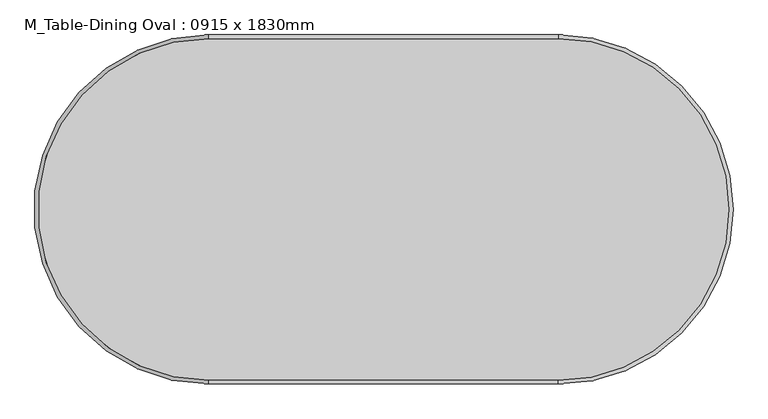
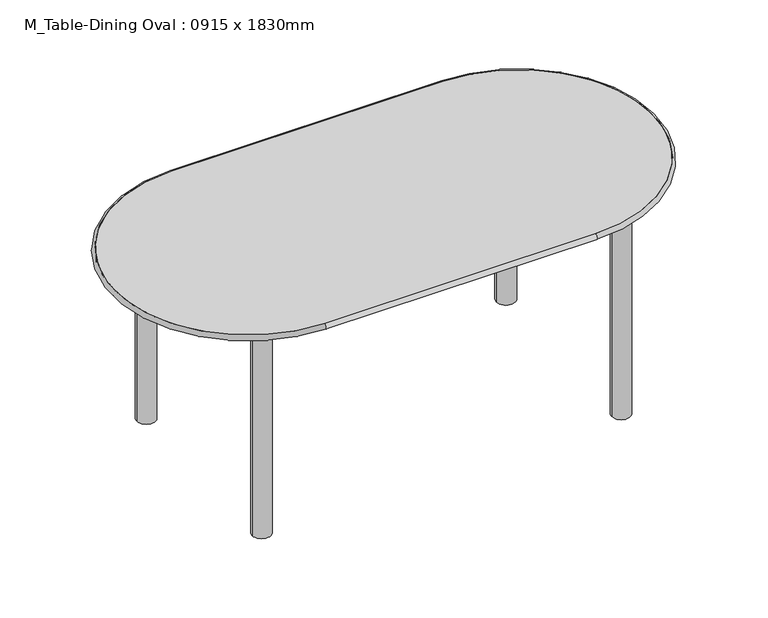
"""IFC4 building model written with IfcOpenShell, lengths in millimetres: furniture geometry, M_Table-Dining Oval : 0915 x 1830mm."""

from ifc_helpers import new_model, si_unit, point, frame, frame_2d, origin, origin_with_axes, place, context, project, spatial, polyline, circle_curve, ellipse_curve, trimmed, segment, composite_curve, outline, extrude, source, transform, mapped, element, save
from ifc_brep_helpers import plane_surface, cylinder_surface, revolved_surface, advanced_brep


def m_table_dining_oval_0915_x_1830mm_ad8305c5(model_context):
    return source(origin(), model_context, "Body", "SolidModel", [
        advanced_brep(
        [(-859.3196721, 806.0733607, 762.0), (55.6803279, 806.0733607, 762.0), (55.6803279, 806.0733607, 742.95), (-859.3196721, 806.0733607, 742.95), (55.6803279, -89.8766393, 762.0), (55.6803279, -89.8766393, 742.95), (-859.3196721, -89.8766393, 762.0), (-859.3196721, -89.8766393, 742.95)],
        [
            (0, 1),
            (1, 2, circle_curve(frame((55.6803279, 806.0733607, 752.475), z_axis=(-1.0, 0.0, 0.0), x_axis=(0.0, -1.0, 0.0)), 9.525)),
            (2, 3),
            (3, 0, circle_curve(frame((-859.3196721, 806.0733607, 752.475), z_axis=(1.0, 0.0, 0.0), x_axis=(0.0, -1.0, 0.0)), 9.525)),
            (2, 1),
            (0, 3),
            (4, 5, circle_curve(frame((55.6803279, -89.8766393, 752.475), z_axis=(1.0, 0.0, 0.0), x_axis=(0.0, 1.0, 0.0)), 9.525)),
            (5, 2, circle_curve(frame((55.6803279, 358.0983607, 742.95), z_axis=(0.0, 0.0, 1.0), x_axis=(0.0, 1.0, 0.0)), 447.975)),
            (1, 4, circle_curve(frame((55.6803279, 358.0983607, 762.0), z_axis=(0.0, 0.0, -1.0), x_axis=(0.0, 1.0, 0.0)), 447.975)),
            (5, 4),
            (4, 6),
            (6, 7, circle_curve(frame((-859.3196721, -89.8766393, 752.475), z_axis=(1.0, 0.0, 0.0), x_axis=(0.0, 1.0, 0.0)), 9.525)),
            (7, 5),
            (7, 6),
            (3, 7, circle_curve(frame((-859.3196721, 358.0983607, 742.95), z_axis=(0.0, 0.0, 1.0), x_axis=(0.0, -1.0, 0.0)), 447.975)),
            (6, 0, circle_curve(frame((-859.3196721, 358.0983607, 762.0), z_axis=(0.0, 0.0, -1.0), x_axis=(0.0, -1.0, 0.0)), 447.975)),
        ],
        [
            cylinder_surface(frame((-859.3196721, 806.0733607, 752.475), z_axis=(-1.0, 0.0, 0.0), x_axis=(0.0, -1.0, 0.0)), 9.525),
            plane_surface(frame((-859.3196721, 806.0733607, 762.0), z_axis=(0.0, -1.0, 0.0), x_axis=(1.0, 0.0, 0.0))),
            revolved_surface(trimmed(ellipse_curve(frame((55.6803279, 806.0733607, 752.475), z_axis=(1.0, 0.0, 0.0), x_axis=(0.0, -1.0, 0.0)), 9.525, 9.525), [point((55.6803279, 806.0733607, 742.95))], [point((55.6803279, 806.0733607, 762.0))], True, "CARTESIAN"), (55.6803279, 358.0983607, 0.0), (0.0, 0.0, 1.0)),
            revolved_surface(polyline([(55.6803279, 806.0733607, 762.0), (55.6803279, 806.0733607, 742.95)]), (55.6803279, 358.0983607, 0.0), (0.0, 0.0, 1.0)),
            cylinder_surface(frame((55.6803279, -89.8766393, 752.475), z_axis=(1.0, 0.0, 0.0), x_axis=(0.0, 1.0, 0.0)), 9.525),
            plane_surface(frame((55.6803279, -89.8766393, 762.0), z_axis=(0.0, 1.0, 0.0), x_axis=(-1.0, 0.0, 0.0))),
            revolved_surface(trimmed(ellipse_curve(frame((-859.3196721, -89.8766393, 752.475), z_axis=(-1.0, 0.0, 0.0), x_axis=(0.0, 1.0, 0.0)), 9.525, 9.525), [point((-859.3196721, -89.8766393, 742.95))], [point((-859.3196721, -89.8766393, 762.0))], True, "CARTESIAN"), (-859.3196721, 358.0983607, 0.0), (0.0, 0.0, 1.0)),
            revolved_surface(polyline([(-859.3196721, -89.87663930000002, 762.0), (-859.3196721, -89.87663930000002, 742.95)]), (-859.3196721, 358.0983607, 0.0), (0.0, 0.0, 1.0)),
        ],
        [
            (0, [[1, 2, 3, 4]]),
            (1, [[-3, 5, -1, 6]]),
            (2, [[7, 8, -2, 9]]),
            (3, [[10, -9, -5, -8]]),
            (4, [[11, 12, 13, -7]]),
            (5, [[-13, 14, -11, -10]]),
            (6, [[-4, 15, -12, 16]]),
            (7, [[-6, -16, -14, -15]]),
        ],
    ),
        extrude(outline(composite_curve([segment(trimmed(circle_curve(frame_2d((-1008.5446721, 21.2483607)), 31.75), [point((-1040.2946721, 21.2483607))], [point((-976.7946721, 21.2483607))], False, "CARTESIAN"), True, "CONTINUOUS"), segment(trimmed(circle_curve(frame_2d((-1008.5446721, 21.2483607)), 31.75), [point((-976.7946721, 21.2483607))], [point((-1040.2946721, 21.2483607))], False, "CARTESIAN"), True, "CONTINUOUS")], self_intersect=False)), origin_with_axes(), (0.0, 0.0, 1.0), 742.95),
        extrude(outline(composite_curve([segment(trimmed(circle_curve(frame_2d((-1008.5446721, 694.9483607)), 31.75), [point((-1040.2946721, 694.9483607))], [point((-976.7946721, 694.9483607))], False, "CARTESIAN"), True, "CONTINUOUS"), segment(trimmed(circle_curve(frame_2d((-1008.5446721, 694.9483607)), 31.75), [point((-976.7946721, 694.9483607))], [point((-1040.2946721, 694.9483607))], False, "CARTESIAN"), True, "CONTINUOUS")], self_intersect=False)), origin_with_axes(), (0.0, 0.0, 1.0), 742.95),
        extrude(outline(composite_curve([segment(trimmed(circle_curve(frame_2d((204.9053279, 21.2483607)), 31.75), [point((173.1553279, 21.2483607))], [point((236.6553279, 21.2483607))], False, "CARTESIAN"), True, "CONTINUOUS"), segment(trimmed(circle_curve(frame_2d((204.9053279, 21.2483607)), 31.75), [point((236.6553279, 21.2483607))], [point((173.1553279, 21.2483607))], False, "CARTESIAN"), True, "CONTINUOUS")], self_intersect=False)), origin_with_axes(), (0.0, 0.0, 1.0), 742.95),
        extrude(outline(composite_curve([segment(trimmed(circle_curve(frame_2d((204.9053279, 694.9483607)), 31.75), [point((173.1553279, 694.9483607))], [point((236.6553279, 694.9483607))], False, "CARTESIAN"), True, "CONTINUOUS"), segment(trimmed(circle_curve(frame_2d((204.9053279, 694.9483607)), 31.75), [point((236.6553279, 694.9483607))], [point((173.1553279, 694.9483607))], False, "CARTESIAN"), True, "CONTINUOUS")], self_intersect=False)), origin_with_axes(), (0.0, 0.0, 1.0), 742.95),
        extrude(outline(polyline([(223.9553279, 2.1983607), (-1027.5946721, 2.1983607), (-1027.5946721, 713.9983607), (223.9553279, 713.9983607), (223.9553279, 2.1983607)]), holes=[polyline([(204.9053279, 21.2483607), (204.9053279, 694.9483607), (-1008.5446721, 694.9483607), (-1008.5446721, 21.2483607), (204.9053279, 21.2483607)])]), frame((0.0, 0.0, 692.15), z_axis=(0.0, 0.0, 1.0), x_axis=(1.0, 0.0, 0.0)), (0.0, 0.0, 1.0), 50.8),
        extrude(outline(composite_curve([segment(trimmed(circle_curve(frame_2d((-859.3196721, 358.0983607)), 447.975), [point((-859.3196721, -89.8766393))], [point((-1307.2946721, 358.0983607))], False, "CARTESIAN"), True, "CONTINUOUS"), segment(trimmed(circle_curve(frame_2d((-859.3196721, 358.0983607)), 447.975), [point((-1307.2946721, 358.0983607))], [point((-859.3196721, 806.0733607))], False, "CARTESIAN"), True, "CONTINUOUS"), segment(polyline([(-859.3196721, 806.0733607), (55.6803279, 806.0733607)]), True, "CONTINUOUS"), segment(trimmed(circle_curve(frame_2d((55.6803279, 358.0983607)), 447.975), [point((55.6803279, 806.0733607))], [point((503.6553279, 358.0983607))], False, "CARTESIAN"), True, "CONTINUOUS"), segment(trimmed(circle_curve(frame_2d((55.6803279, 358.0983607)), 447.975), [point((503.6553279, 358.0983607))], [point((55.6803279, -89.8766393))], False, "CARTESIAN"), True, "CONTINUOUS"), segment(polyline([(55.6803279, -89.8766393), (-859.3196721, -89.8766393)]), True, "CONTINUOUS")], self_intersect=False)), frame((0.0, 0.0, 742.95), z_axis=(0.0, 0.0, 1.0), x_axis=(1.0, 0.0, 0.0)), (0.0, 0.0, 1.0), 19.05),
    ])


if __name__ == "__main__":
    model = new_model("IFC4")
    model_context = context("Model", 3, world=origin())
    ifc_project = project(units=[si_unit("LENGTHUNIT", "METRE", prefix="MILLI")], contexts=[model_context])
    site = spatial("IfcSite", under=ifc_project)
    building = spatial("IfcBuilding", under=site)
    placement = place(None, origin())
    m_table_dining_oval_0915_x_1830mm_shape = m_table_dining_oval_0915_x_1830mm_ad8305c5(model_context)
    element("IfcFurniture", 1, ObjectType="M_Table-Dining Oval : 0915 x 1830mm", at=placement, inside=building, context=model_context, shape_type="MappedRepresentation", body=[
        mapped(m_table_dining_oval_0915_x_1830mm_shape, transform((0.0, 0.0, 0.0), x_axis=(1.0, 0.0, 0.0), y_axis=(0.0, 1.0, 0.0), z_axis=(0.0, 0.0, 1.0))),
    ])
    save(model, "model.ifc")
